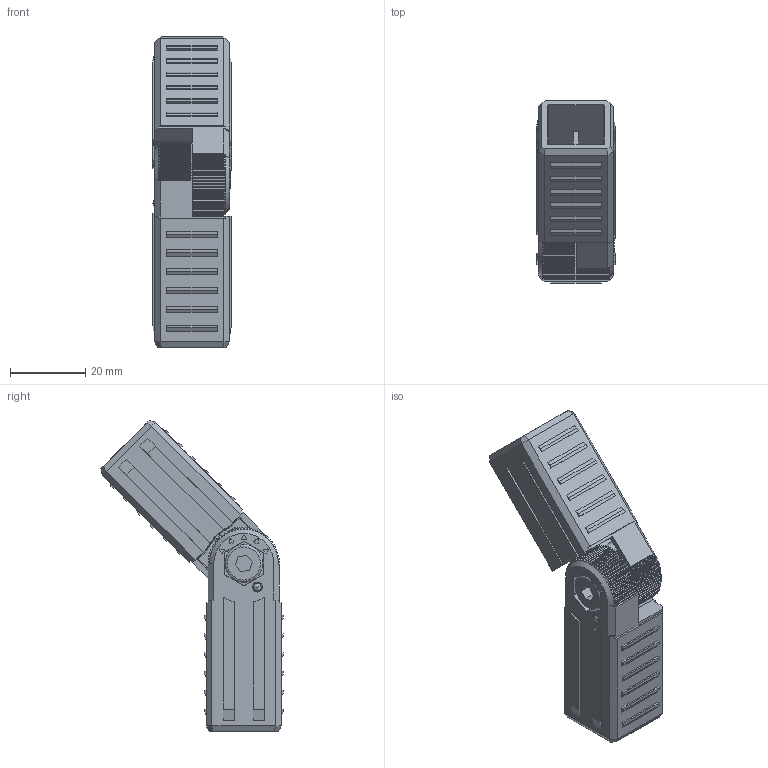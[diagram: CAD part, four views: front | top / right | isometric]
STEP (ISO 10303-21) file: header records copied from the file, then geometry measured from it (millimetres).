
FILE_DESCRIPTION (( 'STEP AP203' ), '1' );
FILE_NAME ('013.025.122 45 gradi.STEP', '2020-09-21T07:03:26', ( '' ), ( '' ), 'SwSTEP 2.0', 'SolidWorks 2018', '' );
FILE_SCHEMA (( 'CONFIG_CONTROL_DESIGN' ));
Length unit declared in the file: millimetre
Products named in the file (5): SPINE CILINDRICHE A UNI 6364-68_A 2.5x20 UNI 6364-68; 013.025.122A; DADI ESAGONALI RIBASSATI UNI 5589_M6 UNI 5589; VITI TCEI TESTA BASSA DIN 7984_M6x16 UNI 5931; 013.025.122 45 gradi
Assembly tree (6 placements, depth 2):
  013.025.122 45 gradi
    013.025.122A  x2
    VITI TCEI TESTA BASSA DIN 7984_M6x16 UNI 5931
    DADI ESAGONALI RIBASSATI UNI 5589_M6 UNI 5589
    SPINE CILINDRICHE A UNI 6364-68_A 2.5x20 UNI 6364-68  x2
Bounding box: 21 x 48.6 x 82.85 mm (x, y, z)
Volume: 20760.9 mm3; surface area: 18027.9 mm2
Topology: 6 solids, 6 shells, 870 faces, 2340 edges, 1522 vertices
Faces by surface type: plane 488, cylinder 270, cone 38, bspline 36, sphere 20, torus 18
Entity records: 15340 total; most frequent: CARTESIAN_POINT 3890, ORIENTED_EDGE 2422, DIRECTION 2069, EDGE_CURVE 1211, VERTEX_POINT 787, LINE 705, VECTOR 705, AXIS2_PLACEMENT_3D 682
